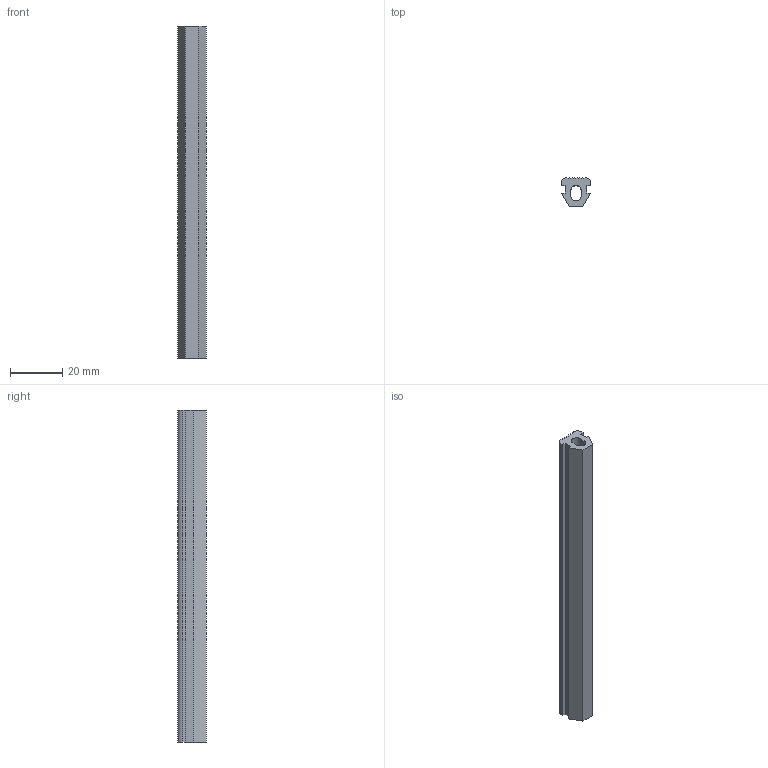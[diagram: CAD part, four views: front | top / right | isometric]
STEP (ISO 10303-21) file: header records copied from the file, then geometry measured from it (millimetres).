
FILE_DESCRIPTION(/* description */ (''),/* implementation_level */ '2;1');
FILE_NAME(/* name */ 'Z:\WEBSITE\DREAMWEAVER\MiniTec\Products\30 SERIES PROFILES\CAD\STEP\22.1185 SUPPORT PROFILE 30 RUBBER.stp',/* time_stamp */ '2018-07-03T09:55:30-04:00',/* author */ ('amoles'),/* organization */ (''),/* preprocessor_version */ 'ST-DEVELOPER v17',/* originating_system */ 'Autodesk Inventor 2018',/* authorisation */ '');
FILE_SCHEMA (('AUTOMOTIVE_DESIGN { 1 0 10303 214 3 1 1 }'));
Length unit declared in the file: inch
Products named in the file (1): 22.1185 SUPPORT PROFILE 30 RUBBER
Bounding box: 11 x 11 x 127 mm (x, y, z)
Volume: 9491.1 mm3; surface area: 8115.2 mm2
Topology: 1 solids, 1 shells, 33 faces, 93 edges, 62 vertices
Faces by surface type: plane 29, cylinder 4
Entity records: 1100 total; most frequent: CARTESIAN_POINT 189, ORIENTED_EDGE 186, DIRECTION 169, EDGE_CURVE 93, LINE 85, VECTOR 85, VERTEX_POINT 62, AXIS2_PLACEMENT_3D 42
